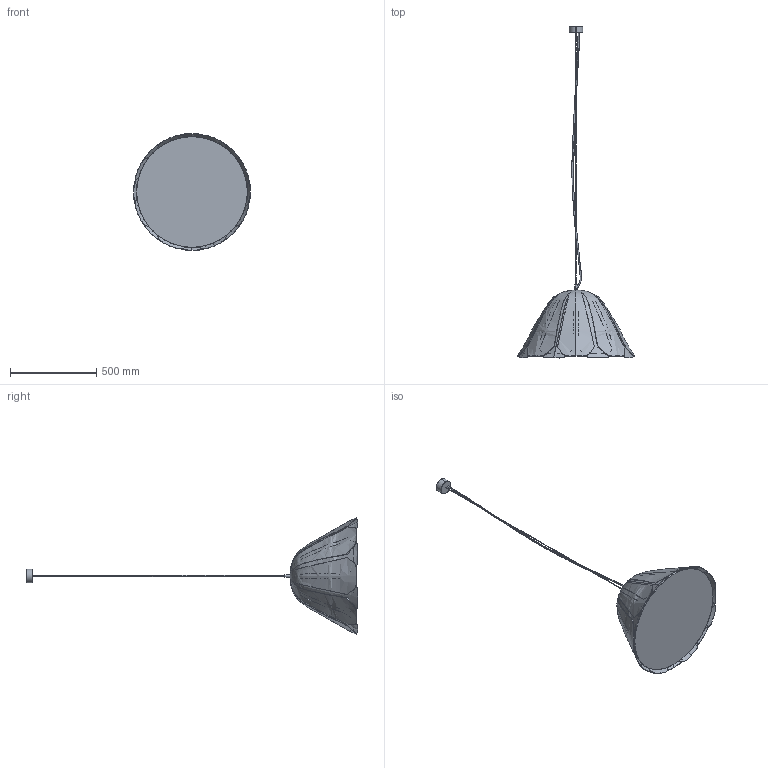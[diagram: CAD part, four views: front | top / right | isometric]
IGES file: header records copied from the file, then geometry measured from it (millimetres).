
Start section: SolidWorks IGES file using analytic representation for surfaces
Global section: file name: G:\Tulip.IGS; native system: SolidWorks 2017; preprocessor: SolidWorks 2017; author: Jules Zaccak; date: 190315.165851; units: millimetre
Bounding box: 676.93 x 1921.22 x 676.93 mm (x, y, z)
Surface area: 2978428.8 mm2 (no closed solid volume)
Topology: 0 solids, 0 shells, 144 faces, 6475 edges, 6467 vertices
Faces by surface type: bspline 134, revolution 10
